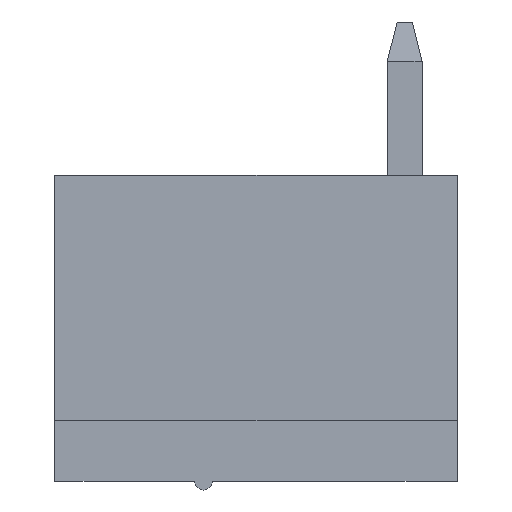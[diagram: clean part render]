
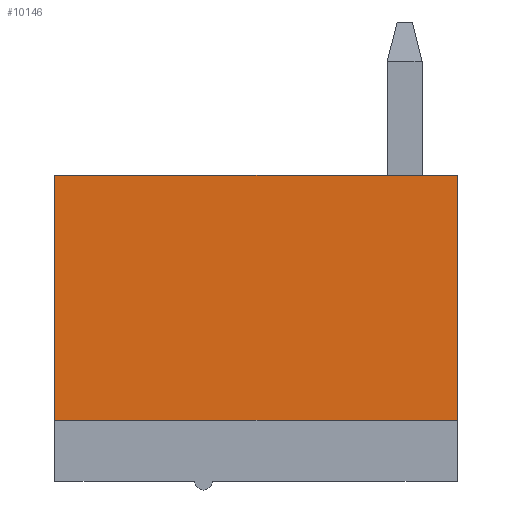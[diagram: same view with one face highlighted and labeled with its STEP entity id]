
A CAD part, left-side view. The second image highlights one B-rep face of the part: STEP entity #10146.
In plain terms, the highlighted planar face has unit normal (-1, 0, 0).
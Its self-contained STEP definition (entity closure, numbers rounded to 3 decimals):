
#2361=DIRECTION('',(0.,1.,0.));
#2362=VECTOR('',#2361,9.2);
#2363=CARTESIAN_POINT('',(2.4,0.,1.4));
#2364=LINE('',#2363,#2362);
#2365=DIRECTION('',(0.,0.,1.));
#2366=VECTOR('',#2365,5.6);
#2367=CARTESIAN_POINT('',(2.4,9.2,1.4));
#2368=LINE('',#2367,#2366);
#2369=DIRECTION('',(0.,-1.,0.));
#2370=VECTOR('',#2369,9.2);
#2371=CARTESIAN_POINT('',(2.4,9.2,7.));
#2372=LINE('',#2371,#2370);
#2373=DIRECTION('',(0.,0.,-1.));
#2374=VECTOR('',#2373,5.6);
#2375=CARTESIAN_POINT('',(2.4,0.,7.));
#2376=LINE('',#2375,#2374);
#5948=CARTESIAN_POINT('',(2.4,0.,1.4));
#5949=VERTEX_POINT('',#5948);
#5950=CARTESIAN_POINT('',(2.4,0.,7.));
#5951=VERTEX_POINT('',#5950);
#6001=CARTESIAN_POINT('',(2.4,9.2,1.4));
#6003=VERTEX_POINT('',#6001);
#6143=CARTESIAN_POINT('',(2.4,9.2,7.));
#6144=VERTEX_POINT('',#6143);
#10134=CARTESIAN_POINT('',(2.4,4.6,4.2));
#10135=DIRECTION('',(1.,0.,0.));
#10136=DIRECTION('',(0.,-1.,0.));
#10137=AXIS2_PLACEMENT_3D('',#10134,#10135,#10136);
#10138=PLANE('',#10137);
#10139=ORIENTED_EDGE('',*,*,#10129,.T.);
#10140=ORIENTED_EDGE('',*,*,#8672,.T.);
#10142=ORIENTED_EDGE('',*,*,#10141,.T.);
#10143=ORIENTED_EDGE('',*,*,#9734,.T.);
#10144=EDGE_LOOP('',(#10139,#10140,#10142,#10143));
#10145=FACE_OUTER_BOUND('',#10144,.F.);
#10146=ADVANCED_FACE('',(#10145),#10138,.F.);
#8672=EDGE_CURVE('',#6003,#6144,#2368,.T.);
#9734=EDGE_CURVE('',#5951,#5949,#2376,.T.);
#10129=EDGE_CURVE('',#5949,#6003,#2364,.T.);
#10141=EDGE_CURVE('',#6144,#5951,#2372,.T.);
